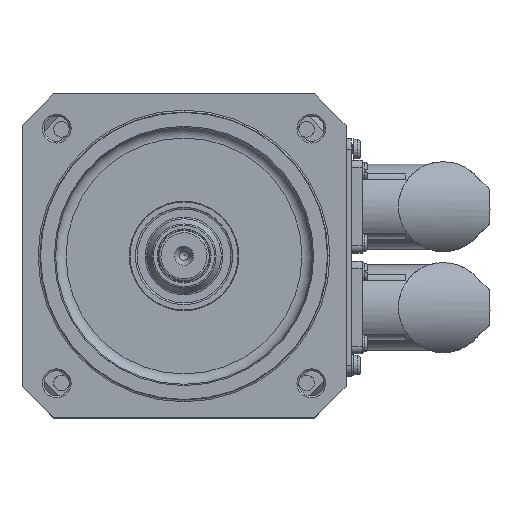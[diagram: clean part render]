
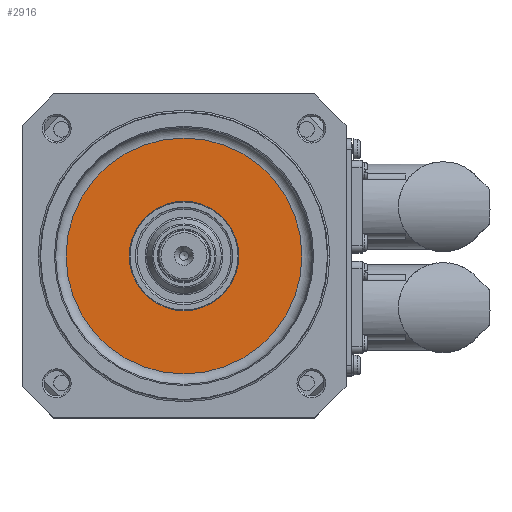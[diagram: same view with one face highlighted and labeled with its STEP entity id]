
A CAD part, top view. The second image highlights one B-rep face of the part: STEP entity #2916.
In plain terms, the highlighted planar face has unit normal (0, 0, 1).
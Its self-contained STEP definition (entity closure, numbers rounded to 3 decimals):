
#998=PLANE('',#13168);
#1187=FACE_OUTER_BOUND('',#4735,.T.);
#2916=ADVANCED_FACE('',(#4157,#1187),#998,.F.);
#4157=FACE_BOUND('',#4734,.T.);
#4734=EDGE_LOOP('',(#6073));
#4735=EDGE_LOOP('',(#6074));
#6073=ORIENTED_EDGE('',*,*,#10661,.T.);
#6074=ORIENTED_EDGE('',*,*,#10662,.T.);
#9363=VERTEX_POINT('',#19058);
#9364=VERTEX_POINT('',#19060);
#10661=EDGE_CURVE('',#9363,#9363,#12276,.T.);
#10662=EDGE_CURVE('',#9364,#9364,#12277,.T.);
#12276=CIRCLE('',#13166,15.212);
#12277=CIRCLE('',#13167,32.76);
#13166=AXIS2_PLACEMENT_3D('',#19057,#15015,#15016);
#13167=AXIS2_PLACEMENT_3D('',#19059,#15017,#15018);
#13168=AXIS2_PLACEMENT_3D('',#19061,#15019,#15020);
#15015=DIRECTION('',(0.,0.,-1.));
#15016=DIRECTION('',(-1.,0.,0.));
#15017=DIRECTION('',(0.,0.,1.));
#15018=DIRECTION('',(-1.,0.,0.));
#15019=DIRECTION('',(0.,0.,-1.));
#15020=DIRECTION('',(-1.,0.,0.));
#19057=CARTESIAN_POINT('',(0.,0.,29.));
#19058=CARTESIAN_POINT('',(-15.212,0.,29.));
#19059=CARTESIAN_POINT('',(0.,0.,29.));
#19060=CARTESIAN_POINT('',(-32.76,0.,29.));
#19061=CARTESIAN_POINT('',(0.,0.,29.));
